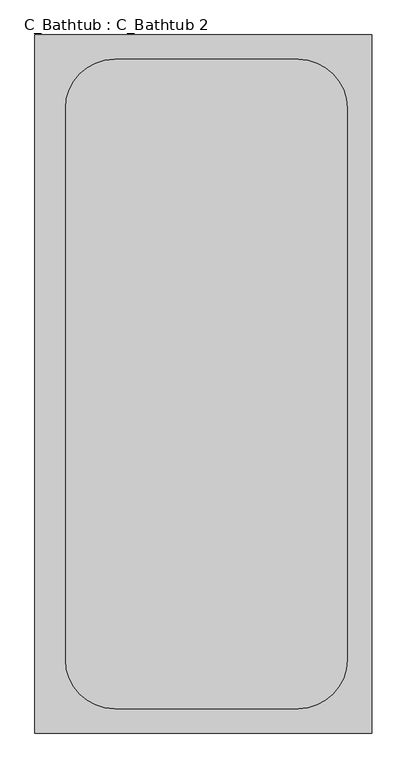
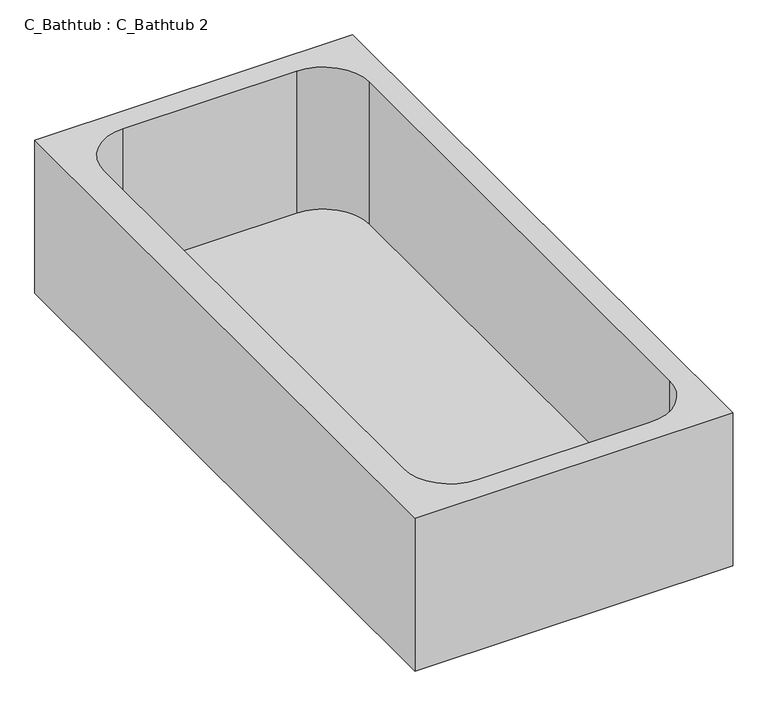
"""IFC4 building model written with IfcOpenShell, lengths in millimetres: flow terminal geometry, C_Bathtub : C_Bathtub 2."""

from ifc_helpers import new_model, si_unit, frame, origin, place, context, project, spatial, polyline, circle_curve, source, transform, mapped, element, save
from ifc_brep_helpers import plane_surface, revolved_surface, advanced_brep


def c_bathtub_c_bathtub_2_3dac6746(model_context):
    return source(origin(), model_context, "Body", "AdvancedBrep", [
        advanced_brep(
        [(698.5, 1447.8, 355.6), (0.0, 1447.8, 355.6), (0.0, 0.0, 355.6), (698.5, 0.0, 355.6), (165.1, 1397.0, 355.6), (546.1, 1397.0, 355.6), (647.7, 1295.4, 355.6), (647.7, 152.4, 355.6), (546.1, 50.8, 355.6), (165.1, 50.8, 355.6), (63.5, 152.4, 355.6), (63.5, 1295.4, 355.6), (698.5, 1447.8, 0.0), (698.5, 0.0, 0.0), (0.0, 0.0, 0.0), (0.0, 1447.8, 0.0), (546.1, 1397.0, 25.4), (165.1, 1397.0, 25.4), (63.5, 1295.4, 25.4), (63.5, 152.4, 25.4), (165.1, 50.8, 25.4), (546.1, 50.8, 25.4), (647.7, 152.4, 25.4), (647.7, 1295.4, 25.4)],
        [
            (0, 1),
            (1, 2),
            (2, 3),
            (3, 0),
            (4, 5),
            (5, 6, circle_curve(frame((546.1, 1295.4, 355.6), z_axis=(0.0, 0.0, -1.0), x_axis=(1.0, 0.0, 0.0)), 101.6)),
            (6, 7),
            (7, 8, circle_curve(frame((546.1, 152.4, 355.6), z_axis=(0.0, 0.0, -1.0), x_axis=(1.0, 0.0, 0.0)), 101.6)),
            (8, 9),
            (9, 10, circle_curve(frame((165.1, 152.4, 355.6), z_axis=(0.0, 0.0, -1.0), x_axis=(1.0, 0.0, 0.0)), 101.6)),
            (10, 11),
            (11, 4, circle_curve(frame((165.1, 1295.4, 355.6), z_axis=(0.0, 0.0, -1.0), x_axis=(1.0, 0.0, 0.0)), 101.6)),
            (12, 13),
            (13, 14),
            (14, 15),
            (15, 12),
            (0, 12),
            (15, 1),
            (14, 2),
            (13, 3),
            (16, 17),
            (17, 18, circle_curve(frame((165.1, 1295.4, 25.4), z_axis=(0.0, 0.0, 1.0), x_axis=(1.0, 0.0, 0.0)), 101.6)),
            (18, 19),
            (19, 20, circle_curve(frame((165.1, 152.4, 25.4), z_axis=(0.0, 0.0, 1.0), x_axis=(1.0, 0.0, 0.0)), 101.6)),
            (20, 21),
            (21, 22, circle_curve(frame((546.1, 152.4, 25.4), z_axis=(0.0, 0.0, 1.0), x_axis=(1.0, 0.0, 0.0)), 101.6)),
            (22, 23),
            (23, 16, circle_curve(frame((546.1, 1295.4, 25.4), z_axis=(0.0, 0.0, 1.0), x_axis=(1.0, 0.0, 0.0)), 101.6)),
            (16, 5),
            (4, 17),
            (18, 11),
            (10, 19),
            (20, 9),
            (8, 21),
            (22, 7),
            (6, 23),
        ],
        [
            plane_surface(frame((0.0, 1447.8, 355.6), z_axis=(0.0, 0.0, 1.0), x_axis=(-1.0, 0.0, 0.0))),
            plane_surface(frame((0.0, 1447.8, 0.0), z_axis=(0.0, 0.0, -1.0), x_axis=(1.0, 0.0, 0.0))),
            plane_surface(frame((698.5, 1447.8, 355.6), z_axis=(0.0, 1.0, 0.0), x_axis=(0.0, 0.0, -1.0))),
            plane_surface(frame((0.0, 1447.8, 355.6), z_axis=(-1.0, 0.0, 0.0), x_axis=(0.0, 0.0, -1.0))),
            plane_surface(frame((0.0, 0.0, 355.6), z_axis=(0.0, -1.0, 0.0), x_axis=(0.0, 0.0, -1.0))),
            plane_surface(frame((698.5, 0.0, 355.6), z_axis=(1.0, 0.0, 0.0), x_axis=(0.0, 0.0, -1.0))),
            plane_surface(frame((165.1, 1397.0, 25.4), z_axis=(0.0, 0.0, 1.0), x_axis=(1.0, 0.0, 0.0))),
            plane_surface(frame((546.1, 1397.0, 355.6), z_axis=(0.0, -1.0, 0.0), x_axis=(0.0, 0.0, -1.0))),
            plane_surface(frame((63.5, 1295.4, 355.6), z_axis=(1.0, 0.0, 0.0), x_axis=(0.0, 0.0, -1.0))),
            plane_surface(frame((165.1, 50.8, 355.6), z_axis=(0.0, 1.0, 0.0), x_axis=(0.0, 0.0, -1.0))),
            plane_surface(frame((647.7, 152.4, 355.6), z_axis=(-1.0, 0.0, 0.0), x_axis=(0.0, 0.0, -1.0))),
            revolved_surface(polyline([(266.7, 1295.4, 355.6), (266.7, 1295.4, 25.4)]), (165.1, 1295.4, 25.4), (0.0, 0.0, 1.0)),
            revolved_surface(polyline([(266.7, 152.4, 355.6), (266.7, 152.4, 25.4)]), (165.1, 152.4, 25.4), (0.0, 0.0, 1.0)),
            revolved_surface(polyline([(647.7, 152.4, 355.6), (647.7, 152.4, 25.4)]), (546.1, 152.4, 25.4), (0.0, 0.0, 1.0)),
            revolved_surface(polyline([(647.7, 1295.4, 355.6), (647.7, 1295.4, 25.4)]), (546.1, 1295.4, 25.4), (0.0, 0.0, 1.0)),
        ],
        [
            (0, [[1, 2, 3, 4], [5, 6, 7, 8, 9, 10, 11, 12]]),
            (1, [[13, 14, 15, 16]]),
            (2, [[-1, 17, -16, 18]]),
            (3, [[-2, -18, -15, 19]]),
            (4, [[-3, -19, -14, 20]]),
            (5, [[-4, -20, -13, -17]]),
            (6, [[21, 22, 23, 24, 25, 26, 27, 28]]),
            (7, [[-21, 29, -5, 30]]),
            (8, [[-23, 31, -11, 32]]),
            (9, [[-25, 33, -9, 34]]),
            (10, [[-27, 35, -7, 36]]),
            (11, [[-22, -30, -12, -31]]),
            (12, [[-24, -32, -10, -33]]),
            (13, [[-26, -34, -8, -35]]),
            (14, [[-28, -36, -6, -29]]),
        ],
    ),
    ])


if __name__ == "__main__":
    model = new_model("IFC4")
    model_context = context("Model", 3, world=origin())
    ifc_project = project(units=[si_unit("LENGTHUNIT", "METRE", prefix="MILLI")], contexts=[model_context])
    site = spatial("IfcSite", under=ifc_project)
    building = spatial("IfcBuilding", under=site)
    placement = place(None, origin())
    c_bathtub_c_bathtub_2_shape = c_bathtub_c_bathtub_2_3dac6746(model_context)
    element("IfcFlowTerminal", 1, ObjectType="C_Bathtub : C_Bathtub 2", at=placement, inside=building, context=model_context, shape_type="MappedRepresentation", body=[
        mapped(c_bathtub_c_bathtub_2_shape, transform((0.0, 0.0, 0.0), x_axis=(1.0, 0.0, 0.0), y_axis=(0.0, 1.0, 0.0), z_axis=(0.0, 0.0, 1.0))),
    ])
    save(model, "model.ifc")
